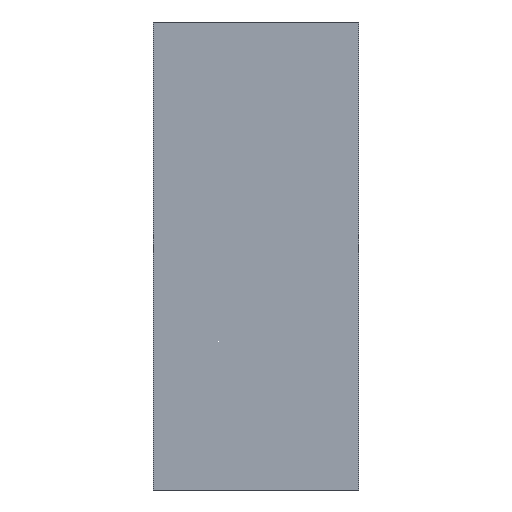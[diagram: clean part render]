
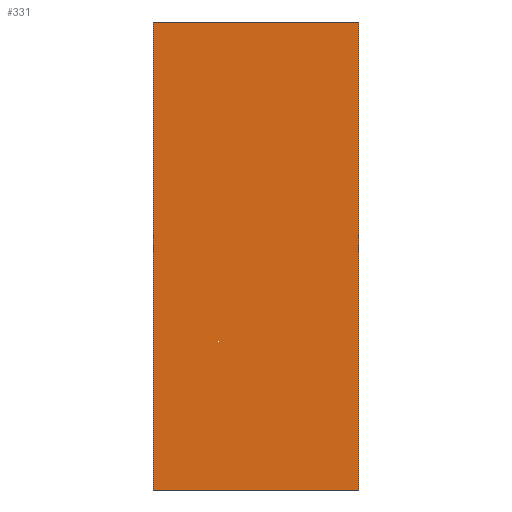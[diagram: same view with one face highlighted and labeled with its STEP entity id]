
A CAD part, front view. The second image highlights one B-rep face of the part: STEP entity #331.
In plain terms, the highlighted planar face has unit normal (0, -1, 0).
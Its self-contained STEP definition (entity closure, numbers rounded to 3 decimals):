
#22 = VERTEX_POINT('',#23);
#23 = CARTESIAN_POINT('',(1260.,190.,-171.));
#32 = PLANE('',#33);
#33 = AXIS2_PLACEMENT_3D('',#34,#35,#36);
#34 = CARTESIAN_POINT('',(1260.,190.,-171.));
#35 = DIRECTION('',(1.,0.,0.));
#36 = DIRECTION('',(0.,0.,1.));
#44 = PLANE('',#45);
#45 = AXIS2_PLACEMENT_3D('',#46,#47,#48);
#46 = CARTESIAN_POINT('',(1410.,190.,-171.));
#47 = DIRECTION('',(0.,-0.,1.));
#48 = DIRECTION('',(-1.,0.,0.));
#85 = VERTEX_POINT('',#86);
#86 = CARTESIAN_POINT('',(1260.,190.,171.));
#100 = PLANE('',#101);
#101 = AXIS2_PLACEMENT_3D('',#102,#103,#104);
#102 = CARTESIAN_POINT('',(1260.,190.,171.));
#103 = DIRECTION('',(0.,0.,-1.));
#104 = DIRECTION('',(1.,0.,0.));
#112 = EDGE_CURVE('',#22,#85,#113,.T.);
#113 = SURFACE_CURVE('',#114,(#118,#125),.PCURVE_S1.);
#114 = LINE('',#115,#116);
#115 = CARTESIAN_POINT('',(1260.,190.,-171.));
#116 = VECTOR('',#117,1.);
#117 = DIRECTION('',(0.,0.,1.));
#118 = PCURVE('',#32,#119);
#119 = DEFINITIONAL_REPRESENTATION('',(#120),#124);
#120 = LINE('',#121,#122);
#121 = CARTESIAN_POINT('',(0.,0.));
#122 = VECTOR('',#123,1.);
#123 = DIRECTION('',(1.,0.));
#124 = ( GEOMETRIC_REPRESENTATION_CONTEXT(2) 
PARAMETRIC_REPRESENTATION_CONTEXT() REPRESENTATION_CONTEXT('2D SPACE',''
  ) );
#125 = PCURVE('',#126,#131);
#126 = PLANE('',#127);
#127 = AXIS2_PLACEMENT_3D('',#128,#129,#130);
#128 = CARTESIAN_POINT('',(1335.,190.,0.));
#129 = DIRECTION('',(0.,1.,0.));
#130 = DIRECTION('',(0.,-0.,1.));
#131 = DEFINITIONAL_REPRESENTATION('',(#132),#136);
#132 = LINE('',#133,#134);
#133 = CARTESIAN_POINT('',(-171.,-75.));
#134 = VECTOR('',#135,1.);
#135 = DIRECTION('',(1.,0.));
#136 = ( GEOMETRIC_REPRESENTATION_CONTEXT(2) 
PARAMETRIC_REPRESENTATION_CONTEXT() REPRESENTATION_CONTEXT('2D SPACE',''
  ) );
#166 = VERTEX_POINT('',#167);
#167 = CARTESIAN_POINT('',(1410.,190.,171.));
#181 = PLANE('',#182);
#182 = AXIS2_PLACEMENT_3D('',#183,#184,#185);
#183 = CARTESIAN_POINT('',(1410.,190.,171.));
#184 = DIRECTION('',(-1.,0.,0.));
#185 = DIRECTION('',(0.,0.,-1.));
#193 = EDGE_CURVE('',#85,#166,#194,.T.);
#194 = SURFACE_CURVE('',#195,(#199,#206),.PCURVE_S1.);
#195 = LINE('',#196,#197);
#196 = CARTESIAN_POINT('',(1260.,190.,171.));
#197 = VECTOR('',#198,1.);
#198 = DIRECTION('',(1.,0.,0.));
#199 = PCURVE('',#100,#200);
#200 = DEFINITIONAL_REPRESENTATION('',(#201),#205);
#201 = LINE('',#202,#203);
#202 = CARTESIAN_POINT('',(0.,0.));
#203 = VECTOR('',#204,1.);
#204 = DIRECTION('',(1.,0.));
#205 = ( GEOMETRIC_REPRESENTATION_CONTEXT(2) 
PARAMETRIC_REPRESENTATION_CONTEXT() REPRESENTATION_CONTEXT('2D SPACE',''
  ) );
#206 = PCURVE('',#126,#207);
#207 = DEFINITIONAL_REPRESENTATION('',(#208),#212);
#208 = LINE('',#209,#210);
#209 = CARTESIAN_POINT('',(171.,-75.));
#210 = VECTOR('',#211,1.);
#211 = DIRECTION('',(0.,1.));
#212 = ( GEOMETRIC_REPRESENTATION_CONTEXT(2) 
PARAMETRIC_REPRESENTATION_CONTEXT() REPRESENTATION_CONTEXT('2D SPACE',''
  ) );
#242 = VERTEX_POINT('',#243);
#243 = CARTESIAN_POINT('',(1410.,190.,-171.));
#264 = EDGE_CURVE('',#166,#242,#265,.T.);
#265 = SURFACE_CURVE('',#266,(#270,#277),.PCURVE_S1.);
#266 = LINE('',#267,#268);
#267 = CARTESIAN_POINT('',(1410.,190.,171.));
#268 = VECTOR('',#269,1.);
#269 = DIRECTION('',(0.,0.,-1.));
#270 = PCURVE('',#181,#271);
#271 = DEFINITIONAL_REPRESENTATION('',(#272),#276);
#272 = LINE('',#273,#274);
#273 = CARTESIAN_POINT('',(0.,-0.));
#274 = VECTOR('',#275,1.);
#275 = DIRECTION('',(1.,0.));
#276 = ( GEOMETRIC_REPRESENTATION_CONTEXT(2) 
PARAMETRIC_REPRESENTATION_CONTEXT() REPRESENTATION_CONTEXT('2D SPACE',''
  ) );
#277 = PCURVE('',#126,#278);
#278 = DEFINITIONAL_REPRESENTATION('',(#279),#283);
#279 = LINE('',#280,#281);
#280 = CARTESIAN_POINT('',(171.,75.));
#281 = VECTOR('',#282,1.);
#282 = DIRECTION('',(-1.,0.));
#283 = ( GEOMETRIC_REPRESENTATION_CONTEXT(2) 
PARAMETRIC_REPRESENTATION_CONTEXT() REPRESENTATION_CONTEXT('2D SPACE',''
  ) );
#311 = EDGE_CURVE('',#242,#22,#312,.T.);
#312 = SURFACE_CURVE('',#313,(#317,#324),.PCURVE_S1.);
#313 = LINE('',#314,#315);
#314 = CARTESIAN_POINT('',(1410.,190.,-171.));
#315 = VECTOR('',#316,1.);
#316 = DIRECTION('',(-1.,0.,0.));
#317 = PCURVE('',#44,#318);
#318 = DEFINITIONAL_REPRESENTATION('',(#319),#323);
#319 = LINE('',#320,#321);
#320 = CARTESIAN_POINT('',(0.,0.));
#321 = VECTOR('',#322,1.);
#322 = DIRECTION('',(1.,0.));
#323 = ( GEOMETRIC_REPRESENTATION_CONTEXT(2) 
PARAMETRIC_REPRESENTATION_CONTEXT() REPRESENTATION_CONTEXT('2D SPACE',''
  ) );
#324 = PCURVE('',#126,#325);
#325 = DEFINITIONAL_REPRESENTATION('',(#326),#330);
#326 = LINE('',#327,#328);
#327 = CARTESIAN_POINT('',(-171.,75.));
#328 = VECTOR('',#329,1.);
#329 = DIRECTION('',(0.,-1.));
#330 = ( GEOMETRIC_REPRESENTATION_CONTEXT(2) 
PARAMETRIC_REPRESENTATION_CONTEXT() REPRESENTATION_CONTEXT('2D SPACE',''
  ) );
#331 = ADVANCED_FACE('',(#332),#126,.F.);
#332 = FACE_BOUND('',#333,.F.);
#333 = EDGE_LOOP('',(#334,#335,#336,#337));
#334 = ORIENTED_EDGE('',*,*,#112,.T.);
#335 = ORIENTED_EDGE('',*,*,#193,.T.);
#336 = ORIENTED_EDGE('',*,*,#264,.T.);
#337 = ORIENTED_EDGE('',*,*,#311,.T.);
